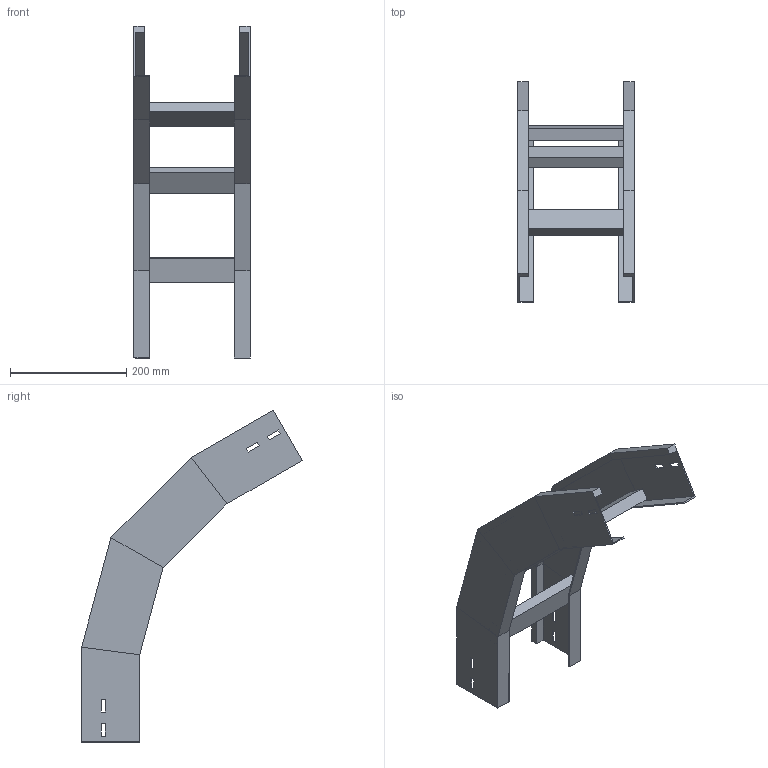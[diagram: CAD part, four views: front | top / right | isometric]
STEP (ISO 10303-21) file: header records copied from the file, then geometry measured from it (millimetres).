
FILE_DESCRIPTION (( 'STEP AP214' ), '1' );
FILE_NAME ('A2_41B3D200.step', '2025-02-21T14:56:31', ( '' ), ( '' ), 'SwSTEP 2.0', 'SolidWorks 2023', '' );
FILE_SCHEMA (( 'AUTOMOTIVE_DESIGN' ));
Length unit declared in the file: millimetre
Products named in the file (3): A2_41B3D200; TRAVERSINO_200; LONGH.DISCESA_60°_H100_R300
Assembly tree (5 placements, depth 2):
  A2_41B3D200
    LONGH.DISCESA_60°_H100_R300  x2
    TRAVERSINO_200  x3
Bounding box: 200 x 379.62 x 570.92 mm (x, y, z)
Volume: 1072764.7 mm3; surface area: 453333.5 mm2
Topology: 5 solids, 5 shells, 118 faces, 276 edges, 168 vertices
Faces by surface type: plane 118
Entity records: 1672 total; most frequent: CARTESIAN_POINT 276, ORIENTED_EDGE 264, DIRECTION 260, EDGE_CURVE 132, VECTOR 132, LINE 132, VERTEX_POINT 80, EDGE_LOOP 64
